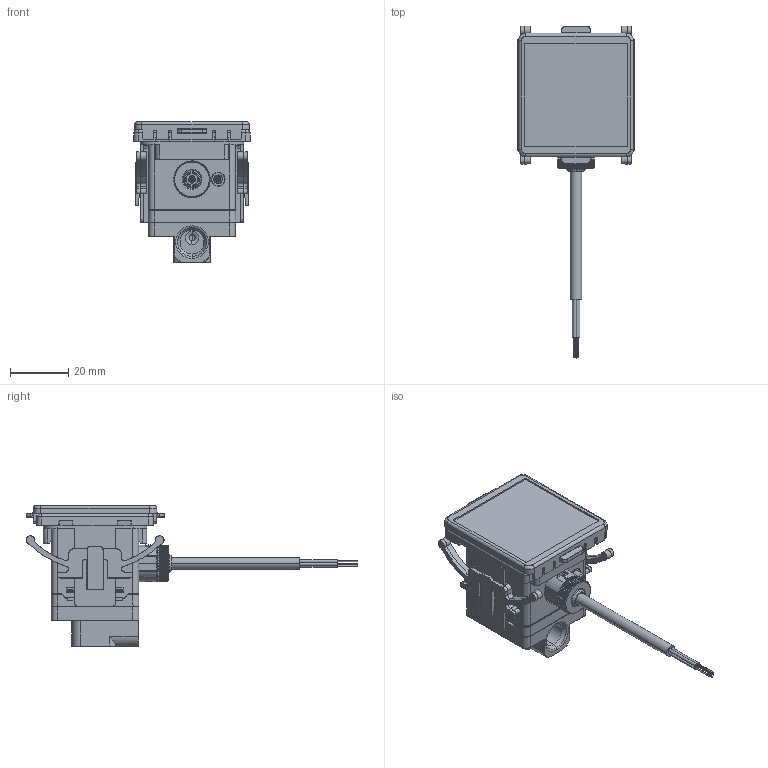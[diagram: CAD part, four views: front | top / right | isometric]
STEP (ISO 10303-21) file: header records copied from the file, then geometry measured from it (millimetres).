
FILE_DESCRIPTION((''),'2;1');
FILE_NAME('KP45_PA-F','2019-07-05T',('Stark'),(''),'CREO PARAMETRIC BY PTC INC, 2014500','CREO PARAMETRIC BY PTC INC, 2014500','');
FILE_SCHEMA(('CONFIG_CONTROL_DESIGN'));
Length unit declared in the file: millimetre
Products named in the file (1): KP45_PA-F
Bounding box: 40 x 114 x 48.4 mm (x, y, z)
Volume: 46003.1 mm3; surface area: 18260.2 mm2
Topology: 1 solids, 1 shells, 1401 faces, 3649 edges, 2288 vertices
Faces by surface type: plane 639, cylinder 428, cone 178, bspline 84, torus 44, sphere 20, extrusion 8
Entity records: 48801 total; most frequent: CARTESIAN_POINT 16204, ORIENTED_EDGE 7294, DIRECTION 6051, EDGE_CURVE 3647, VERTEX_POINT 2288, AXIS2_PLACEMENT_3D 2073, VECTOR 1905, LINE 1897
